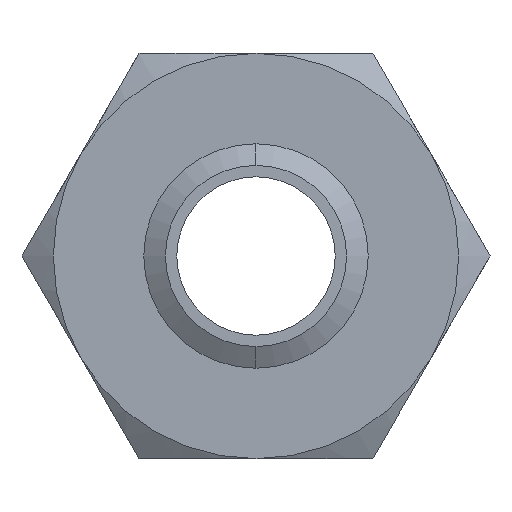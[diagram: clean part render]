
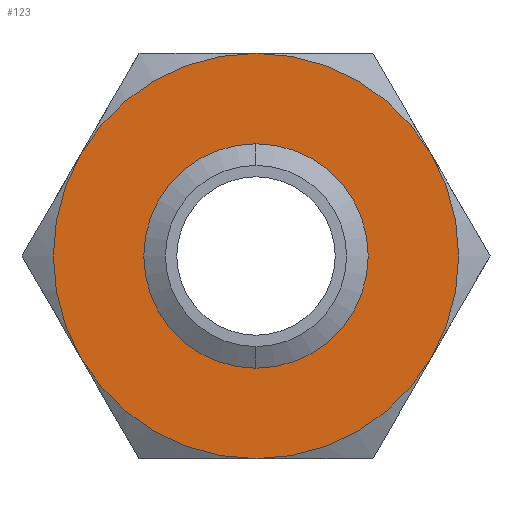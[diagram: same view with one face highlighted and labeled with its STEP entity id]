
A CAD part, front view. The second image highlights one B-rep face of the part: STEP entity #123.
In plain terms, the highlighted planar face has unit normal (0, -1, 0).
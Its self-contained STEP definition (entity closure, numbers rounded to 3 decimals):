
#61 = ORIENTED_EDGE ( 'NONE', *, *, #420, .F. ) ;
#62 = VERTEX_POINT ( 'NONE', #790 ) ;
#63 = ORIENTED_EDGE ( 'NONE', *, *, #1541, .F. ) ;
#112 = ORIENTED_EDGE ( 'NONE', *, *, #119, .F. ) ;
#115 = VERTEX_POINT ( 'NONE', #911 ) ;
#116 = VERTEX_POINT ( 'NONE', #910 ) ;
#117 = ORIENTED_EDGE ( 'NONE', *, *, #118, .F. ) ;
#118 = EDGE_CURVE ( 'NONE', #497, #115, #909, .T. ) ;
#119 = EDGE_CURVE ( 'NONE', #115, #116, #904, .T. ) ;
#122 = EDGE_LOOP ( 'NONE', ( #112, #117, #63, #61, #1593, #401 ) ) ;
#123 = ADVANCED_FACE ( 'NONE', ( #895, #894 ), #245, .F. ) ;
#244 = DIRECTION ( 'NONE',  ( 0., 0., 1. ) ) ;
#245 = PLANE ( 'NONE',  #248 ) ;
#246 = DIRECTION ( 'NONE',  ( 0., 1., 0. ) ) ;
#247 = CARTESIAN_POINT ( 'NONE',  ( 18.764, 0., -32.5 ) ) ;
#248 = AXIS2_PLACEMENT_3D ( 'NONE', #247, #246, #244 ) ;
#390 = ORIENTED_EDGE ( 'NONE', *, *, #581, .F. ) ;
#392 = EDGE_LOOP ( 'NONE', ( #390, #416 ) ) ;
#400 = VERTEX_POINT ( 'NONE', #1408 ) ;
#401 = ORIENTED_EDGE ( 'NONE', *, *, #1098, .F. ) ;
#416 = ORIENTED_EDGE ( 'NONE', *, *, #417, .F. ) ;
#417 = EDGE_CURVE ( 'NONE', #583, #582, #1488, .T. ) ;
#420 = EDGE_CURVE ( 'NONE', #1616, #62, #1470, .T. ) ;
#497 = VERTEX_POINT ( 'NONE', #1634 ) ;
#581 = EDGE_CURVE ( 'NONE', #582, #583, #1754, .T. ) ;
#582 = VERTEX_POINT ( 'NONE', #1749 ) ;
#583 = VERTEX_POINT ( 'NONE', #1748 ) ;
#790 = CARTESIAN_POINT ( 'NONE',  ( -28.146, 0., -16.25 ) ) ;
#894 = FACE_BOUND ( 'NONE', #392, .T. ) ;
#895 = FACE_OUTER_BOUND ( 'NONE', #122, .T. ) ;
#900 = DIRECTION ( 'NONE',  ( 0., 0., 1. ) ) ;
#901 = DIRECTION ( 'NONE',  ( 0., 1., 0. ) ) ;
#902 = CARTESIAN_POINT ( 'NONE',  ( 0., 0., 0. ) ) ;
#903 = AXIS2_PLACEMENT_3D ( 'NONE', #902, #901, #900 ) ;
#904 = CIRCLE ( 'NONE', #903, 32.5 ) ;
#905 = DIRECTION ( 'NONE',  ( 0., 0., 1. ) ) ;
#906 = DIRECTION ( 'NONE',  ( 0., 1., 0. ) ) ;
#907 = CARTESIAN_POINT ( 'NONE',  ( 0., 0., 0. ) ) ;
#908 = AXIS2_PLACEMENT_3D ( 'NONE', #907, #906, #905 ) ;
#909 = CIRCLE ( 'NONE', #908, 32.5 ) ;
#910 = CARTESIAN_POINT ( 'NONE',  ( 28.146, 0., 16.25 ) ) ;
#911 = CARTESIAN_POINT ( 'NONE',  ( 0., 0., 32.5 ) ) ;
#1098 = EDGE_CURVE ( 'NONE', #116, #400, #1990, .T. ) ;
#1408 = CARTESIAN_POINT ( 'NONE',  ( 28.146, 0., -16.25 ) ) ;
#1469 = AXIS2_PLACEMENT_3D ( 'NONE', #1516, #1515, #1514 ) ;
#1470 = CIRCLE ( 'NONE', #1469, 32.5 ) ;
#1484 = DIRECTION ( 'NONE',  ( 0., 0., -1. ) ) ;
#1485 = DIRECTION ( 'NONE',  ( 0., -1., 0. ) ) ;
#1486 = CARTESIAN_POINT ( 'NONE',  ( 0., 0., 0. ) ) ;
#1487 = AXIS2_PLACEMENT_3D ( 'NONE', #1486, #1485, #1484 ) ;
#1488 = CIRCLE ( 'NONE', #1487, 14.536 ) ;
#1514 = DIRECTION ( 'NONE',  ( 0., 0., 1. ) ) ;
#1515 = DIRECTION ( 'NONE',  ( 0., 1., 0. ) ) ;
#1516 = CARTESIAN_POINT ( 'NONE',  ( 0., 0., 0. ) ) ;
#1541 = EDGE_CURVE ( 'NONE', #62, #497, #1985, .T. ) ;
#1559 = EDGE_CURVE ( 'NONE', #400, #1616, #1980, .T. ) ;
#1593 = ORIENTED_EDGE ( 'NONE', *, *, #1559, .F. ) ;
#1616 = VERTEX_POINT ( 'NONE', #1975 ) ;
#1634 = CARTESIAN_POINT ( 'NONE',  ( -28.146, 0., 16.25 ) ) ;
#1748 = CARTESIAN_POINT ( 'NONE',  ( 0., 0., 14.536 ) ) ;
#1749 = CARTESIAN_POINT ( 'NONE',  ( 0., 0., -14.536 ) ) ;
#1750 = DIRECTION ( 'NONE',  ( 0., 0., -1. ) ) ;
#1751 = DIRECTION ( 'NONE',  ( 0., -1., 0. ) ) ;
#1752 = CARTESIAN_POINT ( 'NONE',  ( 0., 0., 0. ) ) ;
#1753 = AXIS2_PLACEMENT_3D ( 'NONE', #1752, #1751, #1750 ) ;
#1754 = CIRCLE ( 'NONE', #1753, 14.536 ) ;
#1975 = CARTESIAN_POINT ( 'NONE',  ( 0., 0., -32.5 ) ) ;
#1976 = DIRECTION ( 'NONE',  ( 0., 0., 1. ) ) ;
#1977 = DIRECTION ( 'NONE',  ( 0., 1., 0. ) ) ;
#1978 = CARTESIAN_POINT ( 'NONE',  ( 0., 0., 0. ) ) ;
#1979 = AXIS2_PLACEMENT_3D ( 'NONE', #1978, #1977, #1976 ) ;
#1980 = CIRCLE ( 'NONE', #1979, 32.5 ) ;
#1981 = DIRECTION ( 'NONE',  ( 0., 0., 1. ) ) ;
#1982 = DIRECTION ( 'NONE',  ( 0., 1., 0. ) ) ;
#1983 = CARTESIAN_POINT ( 'NONE',  ( 0., 0., 0. ) ) ;
#1984 = AXIS2_PLACEMENT_3D ( 'NONE', #1983, #1982, #1981 ) ;
#1985 = CIRCLE ( 'NONE', #1984, 32.5 ) ;
#1986 = DIRECTION ( 'NONE',  ( 0., 0., 1. ) ) ;
#1987 = DIRECTION ( 'NONE',  ( 0., 1., 0. ) ) ;
#1988 = CARTESIAN_POINT ( 'NONE',  ( 0., 0., 0. ) ) ;
#1989 = AXIS2_PLACEMENT_3D ( 'NONE', #1988, #1987, #1986 ) ;
#1990 = CIRCLE ( 'NONE', #1989, 32.5 ) ;
